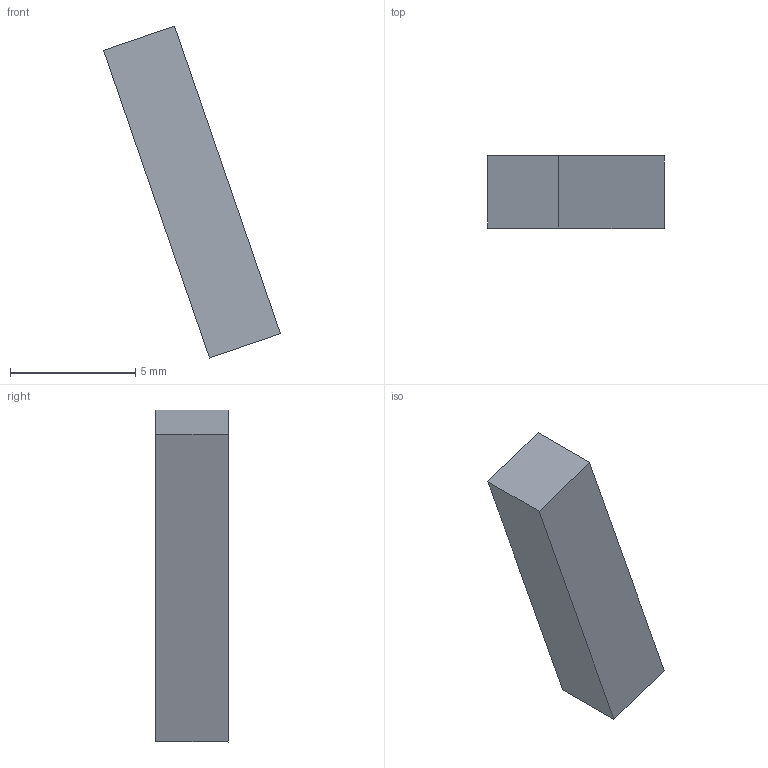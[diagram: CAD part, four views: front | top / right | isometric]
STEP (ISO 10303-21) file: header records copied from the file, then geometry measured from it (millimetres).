
FILE_DESCRIPTION(('STEP AP214'),'1');
FILE_NAME('tmp0.STEP','2026-06-08T18:28:38',(' '),(' '),'Spatial InterOp 3D',' ',' ');
FILE_SCHEMA(('AUTOMOTIVE_DESIGN { 1 0 10303 214 1 1 1 1 }'));
Length unit declared in the file: millimetre
Products named in the file (1): 1
Bounding box: 7.06 x 2.9 x 13.26 mm (x, y, z)
Volume: 113.1 mm3; surface area: 170.7 mm2
Topology: 1 solids, 1 shells, 6 faces, 12 edges, 8 vertices
Faces by surface type: plane 6
Entity records: 181 total; most frequent: CARTESIAN_POINT 27, DIRECTION 26, ORIENTED_EDGE 24, EDGE_CURVE 12, LINE 12, VECTOR 12, VERTEX_POINT 8, AXIS2_PLACEMENT_3D 7
